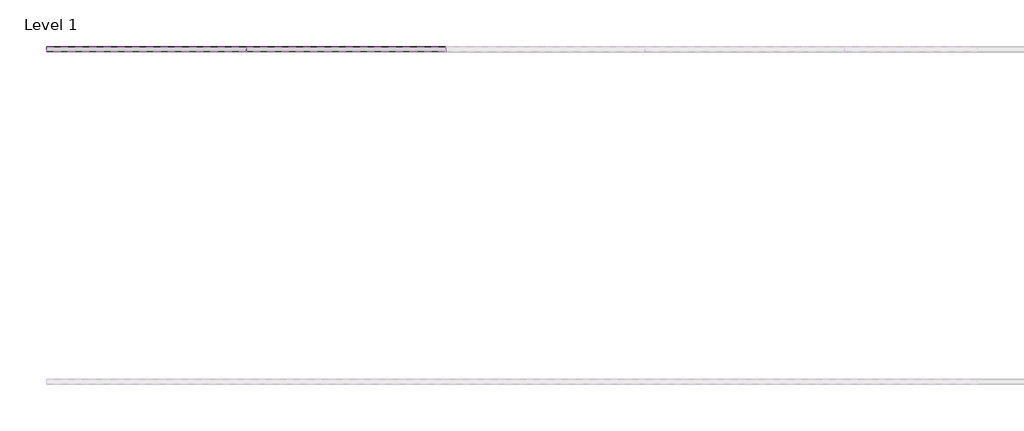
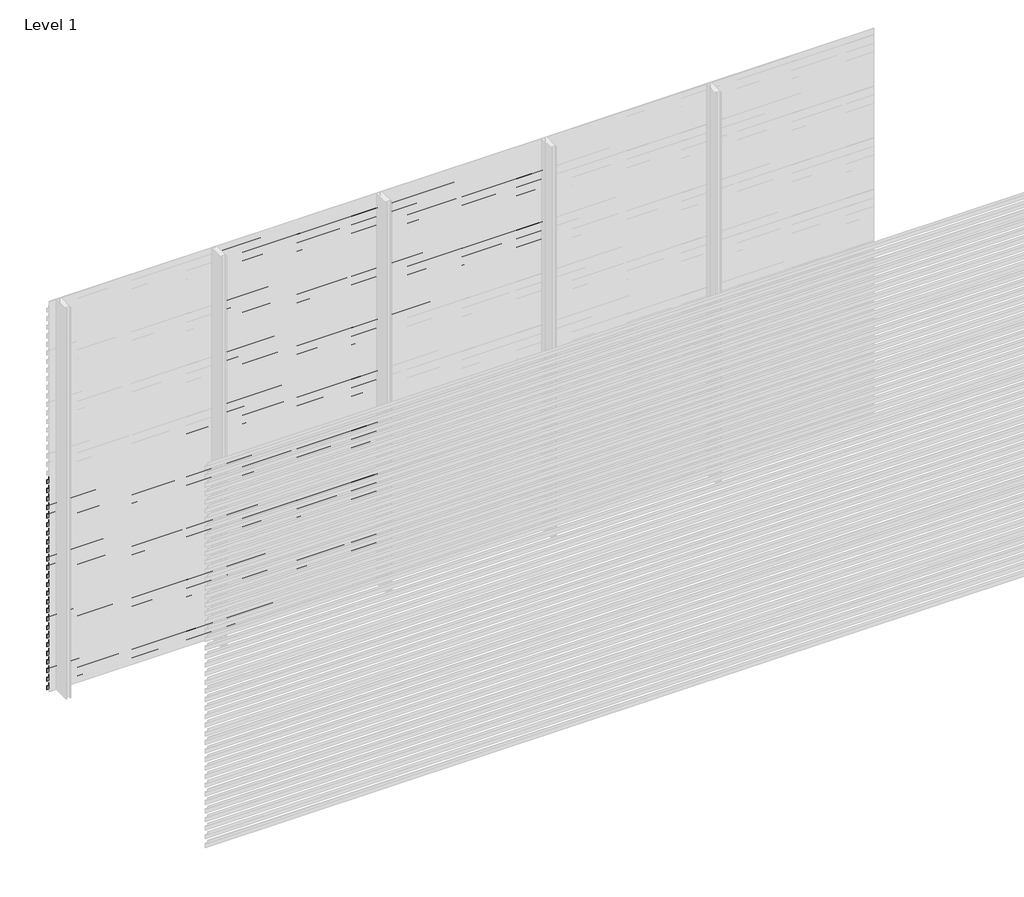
# One storey, part 46 of 540: 85 proxies.
"""IFC4 building model written with IfcOpenShell, lengths in millimetres."""

from ifc_helpers import new_model, si_unit, frame, origin, place, context, project, spatial, polyline, outline, extrude, element, save

model = new_model("IFC4")

# Units and contexts
model_context = context("Model", 3, world=origin())
ifc_project = project(units=[si_unit("LENGTHUNIT", "METRE", prefix="MILLI")], contexts=[model_context])

# Site, building, storey
site = spatial("IfcSite", under=ifc_project)
building = spatial("IfcBuilding", under=site)
storey = spatial("IfcBuildingStorey", under=building, Name="Level 1", Elevation=0.0)

# Proxies
placement = place(None, origin())
element("IfcBuildingElementProxy", 1, Name="Wall Sweeps", at=placement, inside=storey, context=model_context, shape_type="SweptSolid", body=[
    extrude(outline(polyline([(14014.0540136, 1610.0), (14014.0540136, 1577.0), (14012.8040136, 1577.7216933), (14012.8040136, 1609.2872415), (13983.0540136, 1630.0588647), (13983.0540136, 1650.0), (13984.3040136, 1650.0), (13984.3040136, 1630.7716232), (14014.0540136, 1610.0)])), frame((44966.6208097, 0.0, 0.0), z_axis=(1.0, 0.0, 0.0), x_axis=(0.0, 1.0, 0.0)), (0.0, 0.0, 1.0), 1200.0),
])
element("IfcBuildingElementProxy", 2, Name="Wall Sweeps", at=placement, inside=storey, context=model_context, shape_type="SweptSolid", body=[
    extrude(outline(polyline([(14014.0540136, 1544.0), (14014.0540136, 1511.0), (14012.8040136, 1511.7216933), (14012.8040136, 1543.2872415), (13983.0540136, 1564.0588647), (13983.0540136, 1584.0), (13984.3040136, 1584.0), (13984.3040136, 1564.7716232), (14014.0540136, 1544.0)])), frame((44966.6208097, 0.0, 0.0), z_axis=(1.0, 0.0, 0.0), x_axis=(0.0, 1.0, 0.0)), (0.0, 0.0, 1.0), 1200.0),
])
element("IfcBuildingElementProxy", 3, Name="Wall Sweeps", at=placement, inside=storey, context=model_context, shape_type="SweptSolid", body=[
    extrude(outline(polyline([(14014.0540136, 1478.0), (14014.0540136, 1445.0), (14012.8040136, 1445.7216933), (14012.8040136, 1477.2872415), (13983.0540136, 1498.0588647), (13983.0540136, 1518.0), (13984.3040136, 1518.0), (13984.3040136, 1498.7716232), (14014.0540136, 1478.0)])), frame((44966.6208097, 0.0, 0.0), z_axis=(1.0, 0.0, 0.0), x_axis=(0.0, 1.0, 0.0)), (0.0, 0.0, 1.0), 1200.0),
])
element("IfcBuildingElementProxy", 4, Name="Wall Sweeps", at=placement, inside=storey, context=model_context, shape_type="SweptSolid", body=[
    extrude(outline(polyline([(14014.0540136, 1412.0), (14014.0540136, 1379.0), (14012.8040136, 1379.7216933), (14012.8040136, 1411.2872415), (13983.0540136, 1432.0588647), (13983.0540136, 1452.0), (13984.3040136, 1452.0), (13984.3040136, 1432.7716232), (14014.0540136, 1412.0)])), frame((44966.6208097, 0.0, 0.0), z_axis=(1.0, 0.0, 0.0), x_axis=(0.0, 1.0, 0.0)), (0.0, 0.0, 1.0), 1200.0),
])
element("IfcBuildingElementProxy", 5, Name="Wall Sweeps", at=placement, inside=storey, context=model_context, shape_type="SweptSolid", body=[
    extrude(outline(polyline([(14014.0540136, 1346.0), (14014.0540136, 1313.0), (14012.8040136, 1313.7216933), (14012.8040136, 1345.2872415), (13983.0540136, 1366.0588647), (13983.0540136, 1386.0), (13984.3040136, 1386.0), (13984.3040136, 1366.7716232), (14014.0540136, 1346.0)])), frame((44966.6208097, 0.0, 0.0), z_axis=(1.0, 0.0, 0.0), x_axis=(0.0, 1.0, 0.0)), (0.0, 0.0, 1.0), 1200.0),
])
element("IfcBuildingElementProxy", 6, Name="Wall Sweeps", at=placement, inside=storey, context=model_context, shape_type="SweptSolid", body=[
    extrude(outline(polyline([(14014.0540136, 1280.0), (14014.0540136, 1247.0), (14012.8040136, 1247.7216933), (14012.8040136, 1279.2872415), (13983.0540136, 1300.0588647), (13983.0540136, 1320.0), (13984.3040136, 1320.0), (13984.3040136, 1300.7716232), (14014.0540136, 1280.0)])), frame((44966.6208097, 0.0, 0.0), z_axis=(1.0, 0.0, 0.0), x_axis=(0.0, 1.0, 0.0)), (0.0, 0.0, 1.0), 1200.0),
])
element("IfcBuildingElementProxy", 7, Name="Wall Sweeps", at=placement, inside=storey, context=model_context, shape_type="SweptSolid", body=[
    extrude(outline(polyline([(14014.0540136, 1214.0), (14014.0540136, 1181.0), (14012.8040136, 1181.7216933), (14012.8040136, 1213.2872415), (13983.0540136, 1234.0588647), (13983.0540136, 1254.0), (13984.3040136, 1254.0), (13984.3040136, 1234.7716232), (14014.0540136, 1214.0)])), frame((44966.6208097, 0.0, 0.0), z_axis=(1.0, 0.0, 0.0), x_axis=(0.0, 1.0, 0.0)), (0.0, 0.0, 1.0), 1200.0),
])
element("IfcBuildingElementProxy", 8, Name="Wall Sweeps", at=placement, inside=storey, context=model_context, shape_type="SweptSolid", body=[
    extrude(outline(polyline([(14014.0540136, 1148.0), (14014.0540136, 1115.0), (14012.8040136, 1115.7216933), (14012.8040136, 1147.2872415), (13983.0540136, 1168.0588647), (13983.0540136, 1188.0), (13984.3040136, 1188.0), (13984.3040136, 1168.7716232), (14014.0540136, 1148.0)])), frame((44966.6208097, 0.0, 0.0), z_axis=(1.0, 0.0, 0.0), x_axis=(0.0, 1.0, 0.0)), (0.0, 0.0, 1.0), 1200.0),
])
element("IfcBuildingElementProxy", 9, Name="Wall Sweeps", at=placement, inside=storey, context=model_context, shape_type="SweptSolid", body=[
    extrude(outline(polyline([(14014.0540136, 1082.0), (14014.0540136, 1049.0), (14012.8040136, 1049.7216933), (14012.8040136, 1081.2872415), (13983.0540136, 1102.0588647), (13983.0540136, 1122.0), (13984.3040136, 1122.0), (13984.3040136, 1102.7716232), (14014.0540136, 1082.0)])), frame((44966.6208097, 0.0, 0.0), z_axis=(1.0, 0.0, 0.0), x_axis=(0.0, 1.0, 0.0)), (0.0, 0.0, 1.0), 1200.0),
])
element("IfcBuildingElementProxy", 10, Name="Wall Sweeps", at=placement, inside=storey, context=model_context, shape_type="SweptSolid", body=[
    extrude(outline(polyline([(14014.0540136, 1016.0), (14014.0540136, 983.0), (14012.8040136, 983.7216933), (14012.8040136, 1015.2872415), (13983.0540136, 1036.0588647), (13983.0540136, 1056.0), (13984.3040136, 1056.0), (13984.3040136, 1036.7716232), (14014.0540136, 1016.0)])), frame((44966.6208097, 0.0, 0.0), z_axis=(1.0, 0.0, 0.0), x_axis=(0.0, 1.0, 0.0)), (0.0, 0.0, 1.0), 1200.0),
])
element("IfcBuildingElementProxy", 11, Name="Wall Sweeps", at=placement, inside=storey, context=model_context, shape_type="SweptSolid", body=[
    extrude(outline(polyline([(14014.0540136, 950.0), (14014.0540136, 917.0), (14012.8040136, 917.7216933), (14012.8040136, 949.2872415), (13983.0540136, 970.0588647), (13983.0540136, 990.0), (13984.3040136, 990.0), (13984.3040136, 970.7716232), (14014.0540136, 950.0)])), frame((44966.6208097, 0.0, 0.0), z_axis=(1.0, 0.0, 0.0), x_axis=(0.0, 1.0, 0.0)), (0.0, 0.0, 1.0), 1200.0),
])
element("IfcBuildingElementProxy", 12, Name="Wall Sweeps", at=placement, inside=storey, context=model_context, shape_type="SweptSolid", body=[
    extrude(outline(polyline([(14014.0540136, 884.0), (14014.0540136, 851.0), (14012.8040136, 851.7216933), (14012.8040136, 883.2872415), (13983.0540136, 904.0588647), (13983.0540136, 924.0), (13984.3040136, 924.0), (13984.3040136, 904.7716232), (14014.0540136, 884.0)])), frame((44966.6208097, 0.0, 0.0), z_axis=(1.0, 0.0, 0.0), x_axis=(0.0, 1.0, 0.0)), (0.0, 0.0, 1.0), 1200.0),
])
element("IfcBuildingElementProxy", 13, Name="Wall Sweeps", at=placement, inside=storey, context=model_context, shape_type="SweptSolid", body=[
    extrude(outline(polyline([(14014.0540136, 818.0), (14014.0540136, 785.0), (14012.8040136, 785.7216933), (14012.8040136, 817.2872415), (13983.0540136, 838.0588647), (13983.0540136, 858.0), (13984.3040136, 858.0), (13984.3040136, 838.7716232), (14014.0540136, 818.0)])), frame((44966.6208097, 0.0, 0.0), z_axis=(1.0, 0.0, 0.0), x_axis=(0.0, 1.0, 0.0)), (0.0, 0.0, 1.0), 1200.0),
])
element("IfcBuildingElementProxy", 14, Name="Wall Sweeps", at=placement, inside=storey, context=model_context, shape_type="SweptSolid", body=[
    extrude(outline(polyline([(14014.0540136, 752.0), (14014.0540136, 719.0), (14012.8040136, 719.7216933), (14012.8040136, 751.2872415), (13983.0540136, 772.0588647), (13983.0540136, 792.0), (13984.3040136, 792.0), (13984.3040136, 772.7716232), (14014.0540136, 752.0)])), frame((44966.6208097, 0.0, 0.0), z_axis=(1.0, 0.0, 0.0), x_axis=(0.0, 1.0, 0.0)), (0.0, 0.0, 1.0), 1200.0),
])
element("IfcBuildingElementProxy", 15, Name="Wall Sweeps", at=placement, inside=storey, context=model_context, shape_type="SweptSolid", body=[
    extrude(outline(polyline([(14014.0540136, 686.0), (14014.0540136, 653.0), (14012.8040136, 653.7216933), (14012.8040136, 685.2872415), (13983.0540136, 706.0588647), (13983.0540136, 726.0), (13984.3040136, 726.0), (13984.3040136, 706.7716232), (14014.0540136, 686.0)])), frame((44966.6208097, 0.0, 0.0), z_axis=(1.0, 0.0, 0.0), x_axis=(0.0, 1.0, 0.0)), (0.0, 0.0, 1.0), 1200.0),
])
element("IfcBuildingElementProxy", 16, Name="Wall Sweeps", at=placement, inside=storey, context=model_context, shape_type="SweptSolid", body=[
    extrude(outline(polyline([(14014.0540136, 620.0), (14014.0540136, 587.0), (14012.8040136, 587.7216933), (14012.8040136, 619.2872415), (13983.0540136, 640.0588647), (13983.0540136, 660.0), (13984.3040136, 660.0), (13984.3040136, 640.7716232), (14014.0540136, 620.0)])), frame((44966.6208097, 0.0, 0.0), z_axis=(1.0, 0.0, 0.0), x_axis=(0.0, 1.0, 0.0)), (0.0, 0.0, 1.0), 1200.0),
])
element("IfcBuildingElementProxy", 17, Name="Wall Sweeps", at=placement, inside=storey, context=model_context, shape_type="SweptSolid", body=[
    extrude(outline(polyline([(14014.0540136, 554.0), (14014.0540136, 521.0), (14012.8040136, 521.7216933), (14012.8040136, 553.2872415), (13983.0540136, 574.0588647), (13983.0540136, 594.0), (13984.3040136, 594.0), (13984.3040136, 574.7716232), (14014.0540136, 554.0)])), frame((44966.6208097, 0.0, 0.0), z_axis=(1.0, 0.0, 0.0), x_axis=(0.0, 1.0, 0.0)), (0.0, 0.0, 1.0), 1200.0),
])
element("IfcBuildingElementProxy", 18, Name="Wall Sweeps", at=placement, inside=storey, context=model_context, shape_type="SweptSolid", body=[
    extrude(outline(polyline([(14014.0540136, 488.0), (14014.0540136, 455.0), (14012.8040136, 455.7216933), (14012.8040136, 487.2872415), (13983.0540136, 508.0588647), (13983.0540136, 528.0), (13984.3040136, 528.0), (13984.3040136, 508.7716232), (14014.0540136, 488.0)])), frame((44966.6208097, 0.0, 0.0), z_axis=(1.0, 0.0, 0.0), x_axis=(0.0, 1.0, 0.0)), (0.0, 0.0, 1.0), 1200.0),
])
element("IfcBuildingElementProxy", 19, Name="Wall Sweeps", at=placement, inside=storey, context=model_context, shape_type="SweptSolid", body=[
    extrude(outline(polyline([(14014.0540136, 422.0), (14014.0540136, 389.0), (14012.8040136, 389.7216933), (14012.8040136, 421.2872415), (13983.0540136, 442.0588647), (13983.0540136, 462.0), (13984.3040136, 462.0), (13984.3040136, 442.7716232), (14014.0540136, 422.0)])), frame((44966.6208097, 0.0, 0.0), z_axis=(1.0, 0.0, 0.0), x_axis=(0.0, 1.0, 0.0)), (0.0, 0.0, 1.0), 1200.0),
])
element("IfcBuildingElementProxy", 20, Name="Wall Sweeps", at=placement, inside=storey, context=model_context, shape_type="SweptSolid", body=[
    extrude(outline(polyline([(14014.0540136, 356.0), (14014.0540136, 323.0), (14012.8040136, 323.7216933), (14012.8040136, 355.2872415), (13983.0540136, 376.0588647), (13983.0540136, 396.0), (13984.3040136, 396.0), (13984.3040136, 376.7716232), (14014.0540136, 356.0)])), frame((44966.6208097, 0.0, 0.0), z_axis=(1.0, 0.0, 0.0), x_axis=(0.0, 1.0, 0.0)), (0.0, 0.0, 1.0), 1200.0),
])
element("IfcBuildingElementProxy", 21, Name="Wall Sweeps", at=placement, inside=storey, context=model_context, shape_type="SweptSolid", body=[
    extrude(outline(polyline([(14014.0540136, 290.0), (14014.0540136, 257.0), (14012.8040136, 257.7216933), (14012.8040136, 289.2872415), (13983.0540136, 310.0588647), (13983.0540136, 330.0), (13984.3040136, 330.0), (13984.3040136, 310.7716232), (14014.0540136, 290.0)])), frame((44966.6208097, 0.0, 0.0), z_axis=(1.0, 0.0, 0.0), x_axis=(0.0, 1.0, 0.0)), (0.0, 0.0, 1.0), 1200.0),
])
element("IfcBuildingElementProxy", 22, Name="Wall Sweeps", at=placement, inside=storey, context=model_context, shape_type="SweptSolid", body=[
    extrude(outline(polyline([(14014.0540136, 224.0), (14014.0540136, 191.0), (14012.8040136, 191.7216933), (14012.8040136, 223.2872415), (13983.0540136, 244.0588647), (13983.0540136, 264.0), (13984.3040136, 264.0), (13984.3040136, 244.7716232), (14014.0540136, 224.0)])), frame((44966.6208097, 0.0, 0.0), z_axis=(1.0, 0.0, 0.0), x_axis=(0.0, 1.0, 0.0)), (0.0, 0.0, 1.0), 1200.0),
])
element("IfcBuildingElementProxy", 23, Name="Wall Sweeps", at=placement, inside=storey, context=model_context, shape_type="SweptSolid", body=[
    extrude(outline(polyline([(14014.0540136, 158.0), (14014.0540136, 125.0), (14012.8040136, 125.7216933), (14012.8040136, 157.2872415), (13983.0540136, 178.0588647), (13983.0540136, 198.0), (13984.3040136, 198.0), (13984.3040136, 178.7716232), (14014.0540136, 158.0)])), frame((44966.6208097, 0.0, 0.0), z_axis=(1.0, 0.0, 0.0), x_axis=(0.0, 1.0, 0.0)), (0.0, 0.0, 1.0), 1200.0),
])
element("IfcBuildingElementProxy", 24, Name="Wall Sweeps", at=placement, inside=storey, context=model_context, shape_type="SweptSolid", body=[
    extrude(outline(polyline([(14014.0540136, 92.0), (14014.0540136, 59.0), (14012.8040136, 59.7216933), (14012.8040136, 91.2872415), (13983.0540136, 112.0588647), (13983.0540136, 132.0), (13984.3040136, 132.0), (13984.3040136, 112.7716232), (14014.0540136, 92.0)])), frame((44966.6208097, 0.0, 0.0), z_axis=(1.0, 0.0, 0.0), x_axis=(0.0, 1.0, 0.0)), (0.0, 0.0, 1.0), 1200.0),
])
element("IfcBuildingElementProxy", 25, Name="Wall Sweeps", at=placement, inside=storey, context=model_context, shape_type="SweptSolid", body=[
    extrude(outline(polyline([(14014.0540136, 26.0), (14014.0540136, -7.0), (14012.8040136, -6.2783067), (14012.8040136, 25.2872415), (13983.0540136, 46.0588647), (13983.0540136, 66.0), (13984.3040136, 66.0), (13984.3040136, 46.7716232), (14014.0540136, 26.0)])), frame((44966.6208097, 0.0, 0.0), z_axis=(1.0, 0.0, 0.0), x_axis=(0.0, 1.0, 0.0)), (0.0, 0.0, 1.0), 1200.0),
])
element("IfcBuildingElementProxy", 26, Name="Wall Sweeps", at=placement, inside=storey, context=model_context, shape_type="SweptSolid", body=[
    extrude(outline(polyline([(14014.0540136, 2930.0), (14014.0540136, 2897.0), (14012.8040136, 2897.7216933), (14012.8040136, 2929.2872415), (13983.0540136, 2950.0588647), (13983.0540136, 2970.0), (13984.3040136, 2970.0), (13984.3040136, 2950.7716232), (14014.0540136, 2930.0)])), frame((46166.6208097, 0.0, 0.0), z_axis=(1.0, 0.0, 0.0), x_axis=(0.0, 1.0, 0.0)), (0.0, 0.0, 1.0), 1200.0),
])
element("IfcBuildingElementProxy", 27, Name="Wall Sweeps", at=placement, inside=storey, context=model_context, shape_type="SweptSolid", body=[
    extrude(outline(polyline([(14014.0540136, 2864.0), (14014.0540136, 2831.0), (14012.8040136, 2831.7216933), (14012.8040136, 2863.2872415), (13983.0540136, 2884.0588647), (13983.0540136, 2904.0), (13984.3040136, 2904.0), (13984.3040136, 2884.7716232), (14014.0540136, 2864.0)])), frame((46166.6208097, 0.0, 0.0), z_axis=(1.0, 0.0, 0.0), x_axis=(0.0, 1.0, 0.0)), (0.0, 0.0, 1.0), 1200.0),
])
element("IfcBuildingElementProxy", 28, Name="Wall Sweeps", at=placement, inside=storey, context=model_context, shape_type="SweptSolid", body=[
    extrude(outline(polyline([(14014.0540136, 2798.0), (14014.0540136, 2765.0), (14012.8040136, 2765.7216933), (14012.8040136, 2797.2872415), (13983.0540136, 2818.0588647), (13983.0540136, 2838.0), (13984.3040136, 2838.0), (13984.3040136, 2818.7716232), (14014.0540136, 2798.0)])), frame((46166.6208097, 0.0, 0.0), z_axis=(1.0, 0.0, 0.0), x_axis=(0.0, 1.0, 0.0)), (0.0, 0.0, 1.0), 1200.0),
])
element("IfcBuildingElementProxy", 29, Name="Wall Sweeps", at=placement, inside=storey, context=model_context, shape_type="SweptSolid", body=[
    extrude(outline(polyline([(14014.0540136, 2732.0), (14014.0540136, 2699.0), (14012.8040136, 2699.7216933), (14012.8040136, 2731.2872415), (13983.0540136, 2752.0588647), (13983.0540136, 2772.0), (13984.3040136, 2772.0), (13984.3040136, 2752.7716232), (14014.0540136, 2732.0)])), frame((46166.6208097, 0.0, 0.0), z_axis=(1.0, 0.0, 0.0), x_axis=(0.0, 1.0, 0.0)), (0.0, 0.0, 1.0), 1200.0),
])
element("IfcBuildingElementProxy", 30, Name="Wall Sweeps", at=placement, inside=storey, context=model_context, shape_type="SweptSolid", body=[
    extrude(outline(polyline([(14014.0540136, 2666.0), (14014.0540136, 2633.0), (14012.8040136, 2633.7216933), (14012.8040136, 2665.2872415), (13983.0540136, 2686.0588647), (13983.0540136, 2706.0), (13984.3040136, 2706.0), (13984.3040136, 2686.7716232), (14014.0540136, 2666.0)])), frame((46166.6208097, 0.0, 0.0), z_axis=(1.0, 0.0, 0.0), x_axis=(0.0, 1.0, 0.0)), (0.0, 0.0, 1.0), 1200.0),
])
element("IfcBuildingElementProxy", 31, Name="Wall Sweeps", at=placement, inside=storey, context=model_context, shape_type="SweptSolid", body=[
    extrude(outline(polyline([(14014.0540136, 2600.0), (14014.0540136, 2567.0), (14012.8040136, 2567.7216933), (14012.8040136, 2599.2872415), (13983.0540136, 2620.0588647), (13983.0540136, 2640.0), (13984.3040136, 2640.0), (13984.3040136, 2620.7716232), (14014.0540136, 2600.0)])), frame((46166.6208097, 0.0, 0.0), z_axis=(1.0, 0.0, 0.0), x_axis=(0.0, 1.0, 0.0)), (0.0, 0.0, 1.0), 1200.0),
])
element("IfcBuildingElementProxy", 32, Name="Wall Sweeps", at=placement, inside=storey, context=model_context, shape_type="SweptSolid", body=[
    extrude(outline(polyline([(14014.0540136, 2534.0), (14014.0540136, 2501.0), (14012.8040136, 2501.7216933), (14012.8040136, 2533.2872415), (13983.0540136, 2554.0588647), (13983.0540136, 2574.0), (13984.3040136, 2574.0), (13984.3040136, 2554.7716232), (14014.0540136, 2534.0)])), frame((46166.6208097, 0.0, 0.0), z_axis=(1.0, 0.0, 0.0), x_axis=(0.0, 1.0, 0.0)), (0.0, 0.0, 1.0), 1200.0),
])
element("IfcBuildingElementProxy", 33, Name="Wall Sweeps", at=placement, inside=storey, context=model_context, shape_type="SweptSolid", body=[
    extrude(outline(polyline([(14014.0540136, 2468.0), (14014.0540136, 2435.0), (14012.8040136, 2435.7216933), (14012.8040136, 2467.2872415), (13983.0540136, 2488.0588647), (13983.0540136, 2508.0), (13984.3040136, 2508.0), (13984.3040136, 2488.7716232), (14014.0540136, 2468.0)])), frame((46166.6208097, 0.0, 0.0), z_axis=(1.0, 0.0, 0.0), x_axis=(0.0, 1.0, 0.0)), (0.0, 0.0, 1.0), 1200.0),
])
element("IfcBuildingElementProxy", 34, Name="Wall Sweeps", at=placement, inside=storey, context=model_context, shape_type="SweptSolid", body=[
    extrude(outline(polyline([(14014.0540136, 2402.0), (14014.0540136, 2369.0), (14012.8040136, 2369.7216933), (14012.8040136, 2401.2872415), (13983.0540136, 2422.0588647), (13983.0540136, 2442.0), (13984.3040136, 2442.0), (13984.3040136, 2422.7716232), (14014.0540136, 2402.0)])), frame((46166.6208097, 0.0, 0.0), z_axis=(1.0, 0.0, 0.0), x_axis=(0.0, 1.0, 0.0)), (0.0, 0.0, 1.0), 1200.0),
])
element("IfcBuildingElementProxy", 35, Name="Wall Sweeps", at=placement, inside=storey, context=model_context, shape_type="SweptSolid", body=[
    extrude(outline(polyline([(14014.0540136, 2336.0), (14014.0540136, 2303.0), (14012.8040136, 2303.7216933), (14012.8040136, 2335.2872415), (13983.0540136, 2356.0588647), (13983.0540136, 2376.0), (13984.3040136, 2376.0), (13984.3040136, 2356.7716232), (14014.0540136, 2336.0)])), frame((46166.6208097, 0.0, 0.0), z_axis=(1.0, 0.0, 0.0), x_axis=(0.0, 1.0, 0.0)), (0.0, 0.0, 1.0), 1200.0),
])
element("IfcBuildingElementProxy", 36, Name="Wall Sweeps", at=placement, inside=storey, context=model_context, shape_type="SweptSolid", body=[
    extrude(outline(polyline([(14014.0540136, 2270.0), (14014.0540136, 2237.0), (14012.8040136, 2237.7216933), (14012.8040136, 2269.2872415), (13983.0540136, 2290.0588647), (13983.0540136, 2310.0), (13984.3040136, 2310.0), (13984.3040136, 2290.7716232), (14014.0540136, 2270.0)])), frame((46166.6208097, 0.0, 0.0), z_axis=(1.0, 0.0, 0.0), x_axis=(0.0, 1.0, 0.0)), (0.0, 0.0, 1.0), 1200.0),
])
element("IfcBuildingElementProxy", 37, Name="Wall Sweeps", at=placement, inside=storey, context=model_context, shape_type="SweptSolid", body=[
    extrude(outline(polyline([(14014.0540136, 2204.0), (14014.0540136, 2171.0), (14012.8040136, 2171.7216933), (14012.8040136, 2203.2872415), (13983.0540136, 2224.0588647), (13983.0540136, 2244.0), (13984.3040136, 2244.0), (13984.3040136, 2224.7716232), (14014.0540136, 2204.0)])), frame((46166.6208097, 0.0, 0.0), z_axis=(1.0, 0.0, 0.0), x_axis=(0.0, 1.0, 0.0)), (0.0, 0.0, 1.0), 1200.0),
])
element("IfcBuildingElementProxy", 38, Name="Wall Sweeps", at=placement, inside=storey, context=model_context, shape_type="SweptSolid", body=[
    extrude(outline(polyline([(14014.0540136, 2138.0), (14014.0540136, 2105.0), (14012.8040136, 2105.7216933), (14012.8040136, 2137.2872415), (13983.0540136, 2158.0588647), (13983.0540136, 2178.0), (13984.3040136, 2178.0), (13984.3040136, 2158.7716232), (14014.0540136, 2138.0)])), frame((46166.6208097, 0.0, 0.0), z_axis=(1.0, 0.0, 0.0), x_axis=(0.0, 1.0, 0.0)), (0.0, 0.0, 1.0), 1200.0),
])
element("IfcBuildingElementProxy", 39, Name="Wall Sweeps", at=placement, inside=storey, context=model_context, shape_type="SweptSolid", body=[
    extrude(outline(polyline([(14014.0540136, 2072.0), (14014.0540136, 2039.0), (14012.8040136, 2039.7216933), (14012.8040136, 2071.2872415), (13983.0540136, 2092.0588647), (13983.0540136, 2112.0), (13984.3040136, 2112.0), (13984.3040136, 2092.7716232), (14014.0540136, 2072.0)])), frame((46166.6208097, 0.0, 0.0), z_axis=(1.0, 0.0, 0.0), x_axis=(0.0, 1.0, 0.0)), (0.0, 0.0, 1.0), 1200.0),
])
element("IfcBuildingElementProxy", 40, Name="Wall Sweeps", at=placement, inside=storey, context=model_context, shape_type="SweptSolid", body=[
    extrude(outline(polyline([(14014.0540136, 2006.0), (14014.0540136, 1973.0), (14012.8040136, 1973.7216933), (14012.8040136, 2005.2872415), (13983.0540136, 2026.0588647), (13983.0540136, 2046.0), (13984.3040136, 2046.0), (13984.3040136, 2026.7716232), (14014.0540136, 2006.0)])), frame((46166.6208097, 0.0, 0.0), z_axis=(1.0, 0.0, 0.0), x_axis=(0.0, 1.0, 0.0)), (0.0, 0.0, 1.0), 1200.0),
])
element("IfcBuildingElementProxy", 41, Name="Wall Sweeps", at=placement, inside=storey, context=model_context, shape_type="SweptSolid", body=[
    extrude(outline(polyline([(14014.0540136, 1940.0), (14014.0540136, 1907.0), (14012.8040136, 1907.7216933), (14012.8040136, 1939.2872415), (13983.0540136, 1960.0588647), (13983.0540136, 1980.0), (13984.3040136, 1980.0), (13984.3040136, 1960.7716232), (14014.0540136, 1940.0)])), frame((46166.6208097, 0.0, 0.0), z_axis=(1.0, 0.0, 0.0), x_axis=(0.0, 1.0, 0.0)), (0.0, 0.0, 1.0), 1200.0),
])
element("IfcBuildingElementProxy", 42, Name="Wall Sweeps", at=placement, inside=storey, context=model_context, shape_type="SweptSolid", body=[
    extrude(outline(polyline([(14014.0540136, 1874.0), (14014.0540136, 1841.0), (14012.8040136, 1841.7216933), (14012.8040136, 1873.2872415), (13983.0540136, 1894.0588647), (13983.0540136, 1914.0), (13984.3040136, 1914.0), (13984.3040136, 1894.7716232), (14014.0540136, 1874.0)])), frame((46166.6208097, 0.0, 0.0), z_axis=(1.0, 0.0, 0.0), x_axis=(0.0, 1.0, 0.0)), (0.0, 0.0, 1.0), 1200.0),
])
element("IfcBuildingElementProxy", 43, Name="Wall Sweeps", at=placement, inside=storey, context=model_context, shape_type="SweptSolid", body=[
    extrude(outline(polyline([(14014.0540136, 1808.0), (14014.0540136, 1775.0), (14012.8040136, 1775.7216933), (14012.8040136, 1807.2872415), (13983.0540136, 1828.0588647), (13983.0540136, 1848.0), (13984.3040136, 1848.0), (13984.3040136, 1828.7716232), (14014.0540136, 1808.0)])), frame((46166.6208097, 0.0, 0.0), z_axis=(1.0, 0.0, 0.0), x_axis=(0.0, 1.0, 0.0)), (0.0, 0.0, 1.0), 1200.0),
])
element("IfcBuildingElementProxy", 44, Name="Wall Sweeps", at=placement, inside=storey, context=model_context, shape_type="SweptSolid", body=[
    extrude(outline(polyline([(14014.0540136, 1742.0), (14014.0540136, 1709.0), (14012.8040136, 1709.7216933), (14012.8040136, 1741.2872415), (13983.0540136, 1762.0588647), (13983.0540136, 1782.0), (13984.3040136, 1782.0), (13984.3040136, 1762.7716232), (14014.0540136, 1742.0)])), frame((46166.6208097, 0.0, 0.0), z_axis=(1.0, 0.0, 0.0), x_axis=(0.0, 1.0, 0.0)), (0.0, 0.0, 1.0), 1200.0),
])
element("IfcBuildingElementProxy", 45, Name="Wall Sweeps", at=placement, inside=storey, context=model_context, shape_type="SweptSolid", body=[
    extrude(outline(polyline([(14014.0540136, 1676.0), (14014.0540136, 1643.0), (14012.8040136, 1643.7216933), (14012.8040136, 1675.2872415), (13983.0540136, 1696.0588647), (13983.0540136, 1716.0), (13984.3040136, 1716.0), (13984.3040136, 1696.7716232), (14014.0540136, 1676.0)])), frame((46166.6208097, 0.0, 0.0), z_axis=(1.0, 0.0, 0.0), x_axis=(0.0, 1.0, 0.0)), (0.0, 0.0, 1.0), 1200.0),
])
element("IfcBuildingElementProxy", 46, Name="Wall Sweeps", at=placement, inside=storey, context=model_context, shape_type="SweptSolid", body=[
    extrude(outline(polyline([(14014.0540136, 1610.0), (14014.0540136, 1577.0), (14012.8040136, 1577.7216933), (14012.8040136, 1609.2872415), (13983.0540136, 1630.0588647), (13983.0540136, 1650.0), (13984.3040136, 1650.0), (13984.3040136, 1630.7716232), (14014.0540136, 1610.0)])), frame((46166.6208097, 0.0, 0.0), z_axis=(1.0, 0.0, 0.0), x_axis=(0.0, 1.0, 0.0)), (0.0, 0.0, 1.0), 1200.0),
])
element("IfcBuildingElementProxy", 47, Name="Wall Sweeps", at=placement, inside=storey, context=model_context, shape_type="SweptSolid", body=[
    extrude(outline(polyline([(14014.0540136, 1544.0), (14014.0540136, 1511.0), (14012.8040136, 1511.7216933), (14012.8040136, 1543.2872415), (13983.0540136, 1564.0588647), (13983.0540136, 1584.0), (13984.3040136, 1584.0), (13984.3040136, 1564.7716232), (14014.0540136, 1544.0)])), frame((46166.6208097, 0.0, 0.0), z_axis=(1.0, 0.0, 0.0), x_axis=(0.0, 1.0, 0.0)), (0.0, 0.0, 1.0), 1200.0),
])
element("IfcBuildingElementProxy", 48, Name="Wall Sweeps", at=placement, inside=storey, context=model_context, shape_type="SweptSolid", body=[
    extrude(outline(polyline([(14014.0540136, 1478.0), (14014.0540136, 1445.0), (14012.8040136, 1445.7216933), (14012.8040136, 1477.2872415), (13983.0540136, 1498.0588647), (13983.0540136, 1518.0), (13984.3040136, 1518.0), (13984.3040136, 1498.7716232), (14014.0540136, 1478.0)])), frame((46166.6208097, 0.0, 0.0), z_axis=(1.0, 0.0, 0.0), x_axis=(0.0, 1.0, 0.0)), (0.0, 0.0, 1.0), 1200.0),
])
element("IfcBuildingElementProxy", 49, Name="Wall Sweeps", at=placement, inside=storey, context=model_context, shape_type="SweptSolid", body=[
    extrude(outline(polyline([(14014.0540136, 1412.0), (14014.0540136, 1379.0), (14012.8040136, 1379.7216933), (14012.8040136, 1411.2872415), (13983.0540136, 1432.0588647), (13983.0540136, 1452.0), (13984.3040136, 1452.0), (13984.3040136, 1432.7716232), (14014.0540136, 1412.0)])), frame((46166.6208097, 0.0, 0.0), z_axis=(1.0, 0.0, 0.0), x_axis=(0.0, 1.0, 0.0)), (0.0, 0.0, 1.0), 1200.0),
])
element("IfcBuildingElementProxy", 50, Name="Wall Sweeps", at=placement, inside=storey, context=model_context, shape_type="SweptSolid", body=[
    extrude(outline(polyline([(14014.0540136, 1346.0), (14014.0540136, 1313.0), (14012.8040136, 1313.7216933), (14012.8040136, 1345.2872415), (13983.0540136, 1366.0588647), (13983.0540136, 1386.0), (13984.3040136, 1386.0), (13984.3040136, 1366.7716232), (14014.0540136, 1346.0)])), frame((46166.6208097, 0.0, 0.0), z_axis=(1.0, 0.0, 0.0), x_axis=(0.0, 1.0, 0.0)), (0.0, 0.0, 1.0), 1200.0),
])
element("IfcBuildingElementProxy", 51, Name="Wall Sweeps", at=placement, inside=storey, context=model_context, shape_type="SweptSolid", body=[
    extrude(outline(polyline([(14014.0540136, 1280.0), (14014.0540136, 1247.0), (14012.8040136, 1247.7216933), (14012.8040136, 1279.2872415), (13983.0540136, 1300.0588647), (13983.0540136, 1320.0), (13984.3040136, 1320.0), (13984.3040136, 1300.7716232), (14014.0540136, 1280.0)])), frame((46166.6208097, 0.0, 0.0), z_axis=(1.0, 0.0, 0.0), x_axis=(0.0, 1.0, 0.0)), (0.0, 0.0, 1.0), 1200.0),
])
element("IfcBuildingElementProxy", 52, Name="Wall Sweeps", at=placement, inside=storey, context=model_context, shape_type="SweptSolid", body=[
    extrude(outline(polyline([(14014.0540136, 1214.0), (14014.0540136, 1181.0), (14012.8040136, 1181.7216933), (14012.8040136, 1213.2872415), (13983.0540136, 1234.0588647), (13983.0540136, 1254.0), (13984.3040136, 1254.0), (13984.3040136, 1234.7716232), (14014.0540136, 1214.0)])), frame((46166.6208097, 0.0, 0.0), z_axis=(1.0, 0.0, 0.0), x_axis=(0.0, 1.0, 0.0)), (0.0, 0.0, 1.0), 1200.0),
])
element("IfcBuildingElementProxy", 53, Name="Wall Sweeps", at=placement, inside=storey, context=model_context, shape_type="SweptSolid", body=[
    extrude(outline(polyline([(14014.0540136, 1148.0), (14014.0540136, 1115.0), (14012.8040136, 1115.7216933), (14012.8040136, 1147.2872415), (13983.0540136, 1168.0588647), (13983.0540136, 1188.0), (13984.3040136, 1188.0), (13984.3040136, 1168.7716232), (14014.0540136, 1148.0)])), frame((46166.6208097, 0.0, 0.0), z_axis=(1.0, 0.0, 0.0), x_axis=(0.0, 1.0, 0.0)), (0.0, 0.0, 1.0), 1200.0),
])
element("IfcBuildingElementProxy", 54, Name="Wall Sweeps", at=placement, inside=storey, context=model_context, shape_type="SweptSolid", body=[
    extrude(outline(polyline([(14014.0540136, 1082.0), (14014.0540136, 1049.0), (14012.8040136, 1049.7216933), (14012.8040136, 1081.2872415), (13983.0540136, 1102.0588647), (13983.0540136, 1122.0), (13984.3040136, 1122.0), (13984.3040136, 1102.7716232), (14014.0540136, 1082.0)])), frame((46166.6208097, 0.0, 0.0), z_axis=(1.0, 0.0, 0.0), x_axis=(0.0, 1.0, 0.0)), (0.0, 0.0, 1.0), 1200.0),
])
element("IfcBuildingElementProxy", 55, Name="Wall Sweeps", at=placement, inside=storey, context=model_context, shape_type="SweptSolid", body=[
    extrude(outline(polyline([(14014.0540136, 1016.0), (14014.0540136, 983.0), (14012.8040136, 983.7216933), (14012.8040136, 1015.2872415), (13983.0540136, 1036.0588647), (13983.0540136, 1056.0), (13984.3040136, 1056.0), (13984.3040136, 1036.7716232), (14014.0540136, 1016.0)])), frame((46166.6208097, 0.0, 0.0), z_axis=(1.0, 0.0, 0.0), x_axis=(0.0, 1.0, 0.0)), (0.0, 0.0, 1.0), 1200.0),
])
element("IfcBuildingElementProxy", 56, Name="Wall Sweeps", at=placement, inside=storey, context=model_context, shape_type="SweptSolid", body=[
    extrude(outline(polyline([(14014.0540136, 950.0), (14014.0540136, 917.0), (14012.8040136, 917.7216933), (14012.8040136, 949.2872415), (13983.0540136, 970.0588647), (13983.0540136, 990.0), (13984.3040136, 990.0), (13984.3040136, 970.7716232), (14014.0540136, 950.0)])), frame((46166.6208097, 0.0, 0.0), z_axis=(1.0, 0.0, 0.0), x_axis=(0.0, 1.0, 0.0)), (0.0, 0.0, 1.0), 1200.0),
])
element("IfcBuildingElementProxy", 57, Name="Wall Sweeps", at=placement, inside=storey, context=model_context, shape_type="SweptSolid", body=[
    extrude(outline(polyline([(14014.0540136, 884.0), (14014.0540136, 851.0), (14012.8040136, 851.7216933), (14012.8040136, 883.2872415), (13983.0540136, 904.0588647), (13983.0540136, 924.0), (13984.3040136, 924.0), (13984.3040136, 904.7716232), (14014.0540136, 884.0)])), frame((46166.6208097, 0.0, 0.0), z_axis=(1.0, 0.0, 0.0), x_axis=(0.0, 1.0, 0.0)), (0.0, 0.0, 1.0), 1200.0),
])
element("IfcBuildingElementProxy", 58, Name="Wall Sweeps", at=placement, inside=storey, context=model_context, shape_type="SweptSolid", body=[
    extrude(outline(polyline([(14014.0540136, 818.0), (14014.0540136, 785.0), (14012.8040136, 785.7216933), (14012.8040136, 817.2872415), (13983.0540136, 838.0588647), (13983.0540136, 858.0), (13984.3040136, 858.0), (13984.3040136, 838.7716232), (14014.0540136, 818.0)])), frame((46166.6208097, 0.0, 0.0), z_axis=(1.0, 0.0, 0.0), x_axis=(0.0, 1.0, 0.0)), (0.0, 0.0, 1.0), 1200.0),
])
element("IfcBuildingElementProxy", 59, Name="Wall Sweeps", at=placement, inside=storey, context=model_context, shape_type="SweptSolid", body=[
    extrude(outline(polyline([(14014.0540136, 752.0), (14014.0540136, 719.0), (14012.8040136, 719.7216933), (14012.8040136, 751.2872415), (13983.0540136, 772.0588647), (13983.0540136, 792.0), (13984.3040136, 792.0), (13984.3040136, 772.7716232), (14014.0540136, 752.0)])), frame((46166.6208097, 0.0, 0.0), z_axis=(1.0, 0.0, 0.0), x_axis=(0.0, 1.0, 0.0)), (0.0, 0.0, 1.0), 1200.0),
])
element("IfcBuildingElementProxy", 60, Name="Wall Sweeps", at=placement, inside=storey, context=model_context, shape_type="SweptSolid", body=[
    extrude(outline(polyline([(14014.0540136, 686.0), (14014.0540136, 653.0), (14012.8040136, 653.7216933), (14012.8040136, 685.2872415), (13983.0540136, 706.0588647), (13983.0540136, 726.0), (13984.3040136, 726.0), (13984.3040136, 706.7716232), (14014.0540136, 686.0)])), frame((46166.6208097, 0.0, 0.0), z_axis=(1.0, 0.0, 0.0), x_axis=(0.0, 1.0, 0.0)), (0.0, 0.0, 1.0), 1200.0),
])
element("IfcBuildingElementProxy", 61, Name="Wall Sweeps", at=placement, inside=storey, context=model_context, shape_type="SweptSolid", body=[
    extrude(outline(polyline([(14014.0540136, 620.0), (14014.0540136, 587.0), (14012.8040136, 587.7216933), (14012.8040136, 619.2872415), (13983.0540136, 640.0588647), (13983.0540136, 660.0), (13984.3040136, 660.0), (13984.3040136, 640.7716232), (14014.0540136, 620.0)])), frame((46166.6208097, 0.0, 0.0), z_axis=(1.0, 0.0, 0.0), x_axis=(0.0, 1.0, 0.0)), (0.0, 0.0, 1.0), 1200.0),
])
element("IfcBuildingElementProxy", 62, Name="Wall Sweeps", at=placement, inside=storey, context=model_context, shape_type="SweptSolid", body=[
    extrude(outline(polyline([(14014.0540136, 554.0), (14014.0540136, 521.0), (14012.8040136, 521.7216933), (14012.8040136, 553.2872415), (13983.0540136, 574.0588647), (13983.0540136, 594.0), (13984.3040136, 594.0), (13984.3040136, 574.7716232), (14014.0540136, 554.0)])), frame((46166.6208097, 0.0, 0.0), z_axis=(1.0, 0.0, 0.0), x_axis=(0.0, 1.0, 0.0)), (0.0, 0.0, 1.0), 1200.0),
])
element("IfcBuildingElementProxy", 63, Name="Wall Sweeps", at=placement, inside=storey, context=model_context, shape_type="SweptSolid", body=[
    extrude(outline(polyline([(14014.0540136, 488.0), (14014.0540136, 455.0), (14012.8040136, 455.7216933), (14012.8040136, 487.2872415), (13983.0540136, 508.0588647), (13983.0540136, 528.0), (13984.3040136, 528.0), (13984.3040136, 508.7716232), (14014.0540136, 488.0)])), frame((46166.6208097, 0.0, 0.0), z_axis=(1.0, 0.0, 0.0), x_axis=(0.0, 1.0, 0.0)), (0.0, 0.0, 1.0), 1200.0),
])
element("IfcBuildingElementProxy", 64, Name="Wall Sweeps", at=placement, inside=storey, context=model_context, shape_type="SweptSolid", body=[
    extrude(outline(polyline([(14014.0540136, 422.0), (14014.0540136, 389.0), (14012.8040136, 389.7216933), (14012.8040136, 421.2872415), (13983.0540136, 442.0588647), (13983.0540136, 462.0), (13984.3040136, 462.0), (13984.3040136, 442.7716232), (14014.0540136, 422.0)])), frame((46166.6208097, 0.0, 0.0), z_axis=(1.0, 0.0, 0.0), x_axis=(0.0, 1.0, 0.0)), (0.0, 0.0, 1.0), 1200.0),
])
element("IfcBuildingElementProxy", 65, Name="Wall Sweeps", at=placement, inside=storey, context=model_context, shape_type="SweptSolid", body=[
    extrude(outline(polyline([(14014.0540136, 356.0), (14014.0540136, 323.0), (14012.8040136, 323.7216933), (14012.8040136, 355.2872415), (13983.0540136, 376.0588647), (13983.0540136, 396.0), (13984.3040136, 396.0), (13984.3040136, 376.7716232), (14014.0540136, 356.0)])), frame((46166.6208097, 0.0, 0.0), z_axis=(1.0, 0.0, 0.0), x_axis=(0.0, 1.0, 0.0)), (0.0, 0.0, 1.0), 1200.0),
])
element("IfcBuildingElementProxy", 66, Name="Wall Sweeps", at=placement, inside=storey, context=model_context, shape_type="SweptSolid", body=[
    extrude(outline(polyline([(14014.0540136, 290.0), (14014.0540136, 257.0), (14012.8040136, 257.7216933), (14012.8040136, 289.2872415), (13983.0540136, 310.0588647), (13983.0540136, 330.0), (13984.3040136, 330.0), (13984.3040136, 310.7716232), (14014.0540136, 290.0)])), frame((46166.6208097, 0.0, 0.0), z_axis=(1.0, 0.0, 0.0), x_axis=(0.0, 1.0, 0.0)), (0.0, 0.0, 1.0), 1200.0),
])
element("IfcBuildingElementProxy", 67, Name="Wall Sweeps", at=placement, inside=storey, context=model_context, shape_type="SweptSolid", body=[
    extrude(outline(polyline([(14014.0540136, 224.0), (14014.0540136, 191.0), (14012.8040136, 191.7216933), (14012.8040136, 223.2872415), (13983.0540136, 244.0588647), (13983.0540136, 264.0), (13984.3040136, 264.0), (13984.3040136, 244.7716232), (14014.0540136, 224.0)])), frame((46166.6208097, 0.0, 0.0), z_axis=(1.0, 0.0, 0.0), x_axis=(0.0, 1.0, 0.0)), (0.0, 0.0, 1.0), 1200.0),
])
element("IfcBuildingElementProxy", 68, Name="Wall Sweeps", at=placement, inside=storey, context=model_context, shape_type="SweptSolid", body=[
    extrude(outline(polyline([(14014.0540136, 158.0), (14014.0540136, 125.0), (14012.8040136, 125.7216933), (14012.8040136, 157.2872415), (13983.0540136, 178.0588647), (13983.0540136, 198.0), (13984.3040136, 198.0), (13984.3040136, 178.7716232), (14014.0540136, 158.0)])), frame((46166.6208097, 0.0, 0.0), z_axis=(1.0, 0.0, 0.0), x_axis=(0.0, 1.0, 0.0)), (0.0, 0.0, 1.0), 1200.0),
])
element("IfcBuildingElementProxy", 69, Name="Wall Sweeps", at=placement, inside=storey, context=model_context, shape_type="SweptSolid", body=[
    extrude(outline(polyline([(14014.0540136, 92.0), (14014.0540136, 59.0), (14012.8040136, 59.7216933), (14012.8040136, 91.2872415), (13983.0540136, 112.0588647), (13983.0540136, 132.0), (13984.3040136, 132.0), (13984.3040136, 112.7716232), (14014.0540136, 92.0)])), frame((46166.6208097, 0.0, 0.0), z_axis=(1.0, 0.0, 0.0), x_axis=(0.0, 1.0, 0.0)), (0.0, 0.0, 1.0), 1200.0),
])
element("IfcBuildingElementProxy", 70, Name="Wall Sweeps", at=placement, inside=storey, context=model_context, shape_type="SweptSolid", body=[
    extrude(outline(polyline([(14014.0540136, 26.0), (14014.0540136, -7.0), (14012.8040136, -6.2783067), (14012.8040136, 25.2872415), (13983.0540136, 46.0588647), (13983.0540136, 66.0), (13984.3040136, 66.0), (13984.3040136, 46.7716232), (14014.0540136, 26.0)])), frame((46166.6208097, 0.0, 0.0), z_axis=(1.0, 0.0, 0.0), x_axis=(0.0, 1.0, 0.0)), (0.0, 0.0, 1.0), 1200.0),
])
element("IfcBuildingElementProxy", 71, Name="Wall Sweeps", at=placement, inside=storey, context=model_context, shape_type="SweptSolid", body=[
    extrude(outline(polyline([(14014.0540136, 2930.0), (14014.0540136, 2897.0), (14012.8040136, 2897.7216933), (14012.8040136, 2929.2872415), (13983.0540136, 2950.0588647), (13983.0540136, 2970.0), (13984.3040136, 2970.0), (13984.3040136, 2950.7716232), (14014.0540136, 2930.0)])), frame((47366.6208097, 0.0, 0.0), z_axis=(1.0, 0.0, 0.0), x_axis=(0.0, 1.0, 0.0)), (0.0, 0.0, 1.0), 1200.0),
])
element("IfcBuildingElementProxy", 72, Name="Wall Sweeps", at=placement, inside=storey, context=model_context, shape_type="SweptSolid", body=[
    extrude(outline(polyline([(14014.0540136, 2864.0), (14014.0540136, 2831.0), (14012.8040136, 2831.7216933), (14012.8040136, 2863.2872415), (13983.0540136, 2884.0588647), (13983.0540136, 2904.0), (13984.3040136, 2904.0), (13984.3040136, 2884.7716232), (14014.0540136, 2864.0)])), frame((47366.6208097, 0.0, 0.0), z_axis=(1.0, 0.0, 0.0), x_axis=(0.0, 1.0, 0.0)), (0.0, 0.0, 1.0), 1200.0),
])
element("IfcBuildingElementProxy", 73, Name="Wall Sweeps", at=placement, inside=storey, context=model_context, shape_type="SweptSolid", body=[
    extrude(outline(polyline([(14014.0540136, 2798.0), (14014.0540136, 2765.0), (14012.8040136, 2765.7216933), (14012.8040136, 2797.2872415), (13983.0540136, 2818.0588647), (13983.0540136, 2838.0), (13984.3040136, 2838.0), (13984.3040136, 2818.7716232), (14014.0540136, 2798.0)])), frame((47366.6208097, 0.0, 0.0), z_axis=(1.0, 0.0, 0.0), x_axis=(0.0, 1.0, 0.0)), (0.0, 0.0, 1.0), 1200.0),
])
element("IfcBuildingElementProxy", 74, Name="Wall Sweeps", at=placement, inside=storey, context=model_context, shape_type="SweptSolid", body=[
    extrude(outline(polyline([(14014.0540136, 2732.0), (14014.0540136, 2699.0), (14012.8040136, 2699.7216933), (14012.8040136, 2731.2872415), (13983.0540136, 2752.0588647), (13983.0540136, 2772.0), (13984.3040136, 2772.0), (13984.3040136, 2752.7716232), (14014.0540136, 2732.0)])), frame((47366.6208097, 0.0, 0.0), z_axis=(1.0, 0.0, 0.0), x_axis=(0.0, 1.0, 0.0)), (0.0, 0.0, 1.0), 1200.0),
])
element("IfcBuildingElementProxy", 75, Name="Wall Sweeps", at=placement, inside=storey, context=model_context, shape_type="SweptSolid", body=[
    extrude(outline(polyline([(14014.0540136, 2666.0), (14014.0540136, 2633.0), (14012.8040136, 2633.7216933), (14012.8040136, 2665.2872415), (13983.0540136, 2686.0588647), (13983.0540136, 2706.0), (13984.3040136, 2706.0), (13984.3040136, 2686.7716232), (14014.0540136, 2666.0)])), frame((47366.6208097, 0.0, 0.0), z_axis=(1.0, 0.0, 0.0), x_axis=(0.0, 1.0, 0.0)), (0.0, 0.0, 1.0), 1200.0),
])
element("IfcBuildingElementProxy", 76, Name="Wall Sweeps", at=placement, inside=storey, context=model_context, shape_type="SweptSolid", body=[
    extrude(outline(polyline([(14014.0540136, 2600.0), (14014.0540136, 2567.0), (14012.8040136, 2567.7216933), (14012.8040136, 2599.2872415), (13983.0540136, 2620.0588647), (13983.0540136, 2640.0), (13984.3040136, 2640.0), (13984.3040136, 2620.7716232), (14014.0540136, 2600.0)])), frame((47366.6208097, 0.0, 0.0), z_axis=(1.0, 0.0, 0.0), x_axis=(0.0, 1.0, 0.0)), (0.0, 0.0, 1.0), 1200.0),
])
element("IfcBuildingElementProxy", 77, Name="Wall Sweeps", at=placement, inside=storey, context=model_context, shape_type="SweptSolid", body=[
    extrude(outline(polyline([(14014.0540136, 2534.0), (14014.0540136, 2501.0), (14012.8040136, 2501.7216933), (14012.8040136, 2533.2872415), (13983.0540136, 2554.0588647), (13983.0540136, 2574.0), (13984.3040136, 2574.0), (13984.3040136, 2554.7716232), (14014.0540136, 2534.0)])), frame((47366.6208097, 0.0, 0.0), z_axis=(1.0, 0.0, 0.0), x_axis=(0.0, 1.0, 0.0)), (0.0, 0.0, 1.0), 1200.0),
])
element("IfcBuildingElementProxy", 78, Name="Wall Sweeps", at=placement, inside=storey, context=model_context, shape_type="SweptSolid", body=[
    extrude(outline(polyline([(14014.0540136, 2468.0), (14014.0540136, 2435.0), (14012.8040136, 2435.7216933), (14012.8040136, 2467.2872415), (13983.0540136, 2488.0588647), (13983.0540136, 2508.0), (13984.3040136, 2508.0), (13984.3040136, 2488.7716232), (14014.0540136, 2468.0)])), frame((47366.6208097, 0.0, 0.0), z_axis=(1.0, 0.0, 0.0), x_axis=(0.0, 1.0, 0.0)), (0.0, 0.0, 1.0), 1200.0),
])
element("IfcBuildingElementProxy", 79, Name="Wall Sweeps", at=placement, inside=storey, context=model_context, shape_type="SweptSolid", body=[
    extrude(outline(polyline([(14014.0540136, 2402.0), (14014.0540136, 2369.0), (14012.8040136, 2369.7216933), (14012.8040136, 2401.2872415), (13983.0540136, 2422.0588647), (13983.0540136, 2442.0), (13984.3040136, 2442.0), (13984.3040136, 2422.7716232), (14014.0540136, 2402.0)])), frame((47366.6208097, 0.0, 0.0), z_axis=(1.0, 0.0, 0.0), x_axis=(0.0, 1.0, 0.0)), (0.0, 0.0, 1.0), 1200.0),
])
element("IfcBuildingElementProxy", 80, Name="Wall Sweeps", at=placement, inside=storey, context=model_context, shape_type="SweptSolid", body=[
    extrude(outline(polyline([(14014.0540136, 2336.0), (14014.0540136, 2303.0), (14012.8040136, 2303.7216933), (14012.8040136, 2335.2872415), (13983.0540136, 2356.0588647), (13983.0540136, 2376.0), (13984.3040136, 2376.0), (13984.3040136, 2356.7716232), (14014.0540136, 2336.0)])), frame((47366.6208097, 0.0, 0.0), z_axis=(1.0, 0.0, 0.0), x_axis=(0.0, 1.0, 0.0)), (0.0, 0.0, 1.0), 1200.0),
])
element("IfcBuildingElementProxy", 81, Name="Wall Sweeps", at=placement, inside=storey, context=model_context, shape_type="SweptSolid", body=[
    extrude(outline(polyline([(14014.0540136, 2270.0), (14014.0540136, 2237.0), (14012.8040136, 2237.7216933), (14012.8040136, 2269.2872415), (13983.0540136, 2290.0588647), (13983.0540136, 2310.0), (13984.3040136, 2310.0), (13984.3040136, 2290.7716232), (14014.0540136, 2270.0)])), frame((47366.6208097, 0.0, 0.0), z_axis=(1.0, 0.0, 0.0), x_axis=(0.0, 1.0, 0.0)), (0.0, 0.0, 1.0), 1200.0),
])
element("IfcBuildingElementProxy", 82, Name="Wall Sweeps", at=placement, inside=storey, context=model_context, shape_type="SweptSolid", body=[
    extrude(outline(polyline([(14014.0540136, 2204.0), (14014.0540136, 2171.0), (14012.8040136, 2171.7216933), (14012.8040136, 2203.2872415), (13983.0540136, 2224.0588647), (13983.0540136, 2244.0), (13984.3040136, 2244.0), (13984.3040136, 2224.7716232), (14014.0540136, 2204.0)])), frame((47366.6208097, 0.0, 0.0), z_axis=(1.0, 0.0, 0.0), x_axis=(0.0, 1.0, 0.0)), (0.0, 0.0, 1.0), 1200.0),
])
element("IfcBuildingElementProxy", 83, Name="Wall Sweeps", at=placement, inside=storey, context=model_context, shape_type="SweptSolid", body=[
    extrude(outline(polyline([(14014.0540136, 2138.0), (14014.0540136, 2105.0), (14012.8040136, 2105.7216933), (14012.8040136, 2137.2872415), (13983.0540136, 2158.0588647), (13983.0540136, 2178.0), (13984.3040136, 2178.0), (13984.3040136, 2158.7716232), (14014.0540136, 2138.0)])), frame((47366.6208097, 0.0, 0.0), z_axis=(1.0, 0.0, 0.0), x_axis=(0.0, 1.0, 0.0)), (0.0, 0.0, 1.0), 1200.0),
])
element("IfcBuildingElementProxy", 84, Name="Wall Sweeps", at=placement, inside=storey, context=model_context, shape_type="SweptSolid", body=[
    extrude(outline(polyline([(14014.0540136, 2072.0), (14014.0540136, 2039.0), (14012.8040136, 2039.7216933), (14012.8040136, 2071.2872415), (13983.0540136, 2092.0588647), (13983.0540136, 2112.0), (13984.3040136, 2112.0), (13984.3040136, 2092.7716232), (14014.0540136, 2072.0)])), frame((47366.6208097, 0.0, 0.0), z_axis=(1.0, 0.0, 0.0), x_axis=(0.0, 1.0, 0.0)), (0.0, 0.0, 1.0), 1200.0),
])
element("IfcBuildingElementProxy", 85, Name="Wall Sweeps", at=placement, inside=storey, context=model_context, shape_type="SweptSolid", body=[
    extrude(outline(polyline([(14014.0540136, 2006.0), (14014.0540136, 1973.0), (14012.8040136, 1973.7216933), (14012.8040136, 2005.2872415), (13983.0540136, 2026.0588647), (13983.0540136, 2046.0), (13984.3040136, 2046.0), (13984.3040136, 2026.7716232), (14014.0540136, 2006.0)])), frame((47366.6208097, 0.0, 0.0), z_axis=(1.0, 0.0, 0.0), x_axis=(0.0, 1.0, 0.0)), (0.0, 0.0, 1.0), 1200.0),
])

save(model, "model.ifc")
